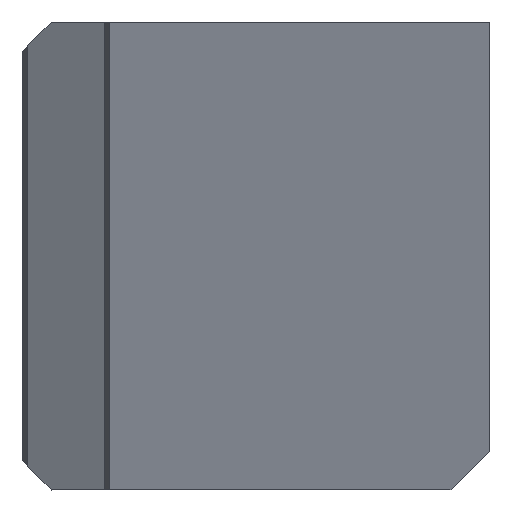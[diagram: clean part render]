
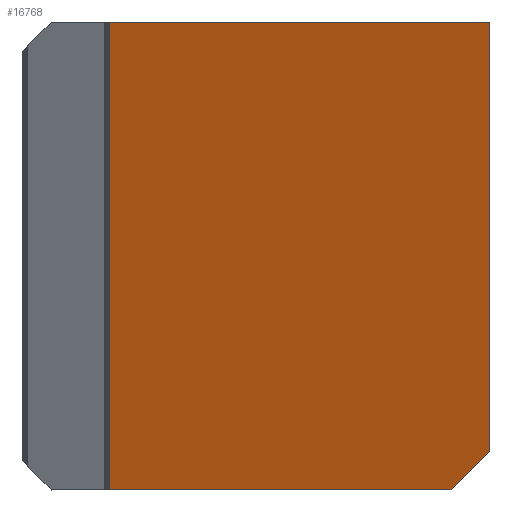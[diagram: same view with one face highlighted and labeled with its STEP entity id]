
A CAD part, left-side view. The second image highlights one B-rep face of the part: STEP entity #16768.
In plain terms, the highlighted planar face has unit normal (-0.943, 0, -0.334).
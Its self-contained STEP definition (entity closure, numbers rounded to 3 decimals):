
#109 = VECTOR ( 'NONE', #26029, 1000. ) ;
#2843 = FACE_OUTER_BOUND ( 'NONE', #10955, .T. ) ;
#10955 = EDGE_LOOP ( 'NONE', ( #87946, #97237, #72188, #85168, #70331 ) ) ;
#11930 = DIRECTION ( 'NONE',  ( -0.942, 0., -0.334 ) ) ;
#13824 = VERTEX_POINT ( 'NONE', #67755 ) ;
#14904 = EDGE_CURVE ( 'NONE', #22644, #26757, #84870, .T. ) ;
#16498 = EDGE_CURVE ( 'NONE', #90846, #22644, #46276, .T. ) ;
#16768 = ADVANCED_FACE ( 'NONE', ( #2843 ), #35508, .T. ) ;
#17213 = AXIS2_PLACEMENT_3D ( 'NONE', #27477, #11930, #52069 ) ;
#18786 = CARTESIAN_POINT ( 'NONE',  ( 3.671, -11.651, -10.349 ) ) ;
#22644 = VERTEX_POINT ( 'NONE', #30210 ) ;
#22963 = VECTOR ( 'NONE', #50909, 1000. ) ;
#26029 = DIRECTION ( 'NONE',  ( 0.334, 0., -0.942 ) ) ;
#26757 = VERTEX_POINT ( 'NONE', #28995 ) ;
#27477 = CARTESIAN_POINT ( 'NONE',  ( 0., 0., 0. ) ) ;
#27527 = EDGE_CURVE ( 'NONE', #41546, #26757, #102262, .T. ) ;
#28995 = CARTESIAN_POINT ( 'NONE',  ( 7.803, 0., -22. ) ) ;
#30210 = CARTESIAN_POINT ( 'NONE',  ( 0., 0., 0. ) ) ;
#30766 = CARTESIAN_POINT ( 'NONE',  ( 0., 24., 0. ) ) ;
#33102 = VECTOR ( 'NONE', #100334, 1000. ) ;
#34521 = LINE ( 'NONE', #51123, #33102 ) ;
#35508 = PLANE ( 'NONE',  #17213 ) ;
#39152 = CARTESIAN_POINT ( 'NONE',  ( 0., 19.5, 0. ) ) ;
#41546 = VERTEX_POINT ( 'NONE', #96785 ) ;
#43233 = VECTOR ( 'NONE', #62724, 1000. ) ;
#46276 = LINE ( 'NONE', #30766, #78717 ) ;
#50909 = DIRECTION ( 'NONE',  ( -0.243, -0.686, 0.686 ) ) ;
#51123 = CARTESIAN_POINT ( 'NONE',  ( 8.512, 24., -24. ) ) ;
#52069 = DIRECTION ( 'NONE',  ( -0.334, 0., 0.942 ) ) ;
#52384 = EDGE_CURVE ( 'NONE', #41546, #13824, #34521, .T. ) ;
#53611 = LINE ( 'NONE', #79810, #43233 ) ;
#62724 = DIRECTION ( 'NONE',  ( -0.334, 0., 0.942 ) ) ;
#67755 = CARTESIAN_POINT ( 'NONE',  ( 8.512, 19.5, -24. ) ) ;
#70331 = ORIENTED_EDGE ( 'NONE', *, *, #90806, .F. ) ;
#72188 = ORIENTED_EDGE ( 'NONE', *, *, #14904, .F. ) ;
#78394 = DIRECTION ( 'NONE',  ( 0., -1., 0. ) ) ;
#78717 = VECTOR ( 'NONE', #78394, 1000. ) ;
#79810 = CARTESIAN_POINT ( 'NONE',  ( 0., 19.5, 0. ) ) ;
#84870 = LINE ( 'NONE', #100413, #109 ) ;
#85168 = ORIENTED_EDGE ( 'NONE', *, *, #16498, .F. ) ;
#87946 = ORIENTED_EDGE ( 'NONE', *, *, #52384, .F. ) ;
#90806 = EDGE_CURVE ( 'NONE', #13824, #90846, #53611, .T. ) ;
#90846 = VERTEX_POINT ( 'NONE', #39152 ) ;
#96785 = CARTESIAN_POINT ( 'NONE',  ( 8.512, 2., -24. ) ) ;
#97237 = ORIENTED_EDGE ( 'NONE', *, *, #27527, .T. ) ;
#100334 = DIRECTION ( 'NONE',  ( 0., 1., 0. ) ) ;
#100413 = CARTESIAN_POINT ( 'NONE',  ( 8.512, 0., -24. ) ) ;
#102262 = LINE ( 'NONE', #18786, #22963 ) ;
